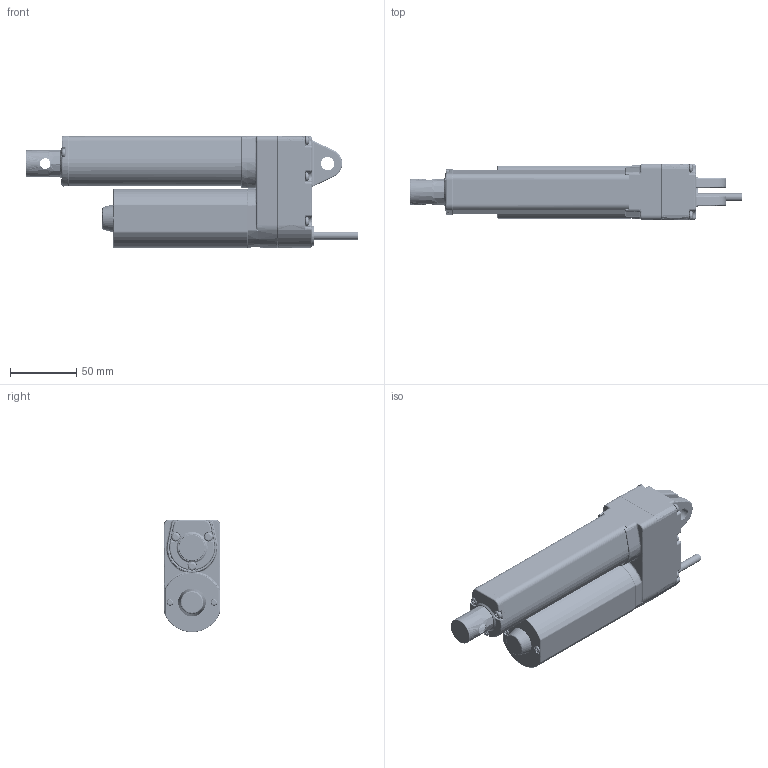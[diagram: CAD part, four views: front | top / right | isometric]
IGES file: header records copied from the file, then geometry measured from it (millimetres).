
Start section: SolidWorks IGES file using analytic representation for surfaces
Bounding box: 251.19 x 42.99 x 85 mm (x, y, z)
Surface area: 152526.2 mm2 (no closed solid volume)
Topology: 0 solids, 0 shells, 2541 faces, 24253 edges, 24225 vertices
Faces by surface type: bspline 1310, revolution 1231
